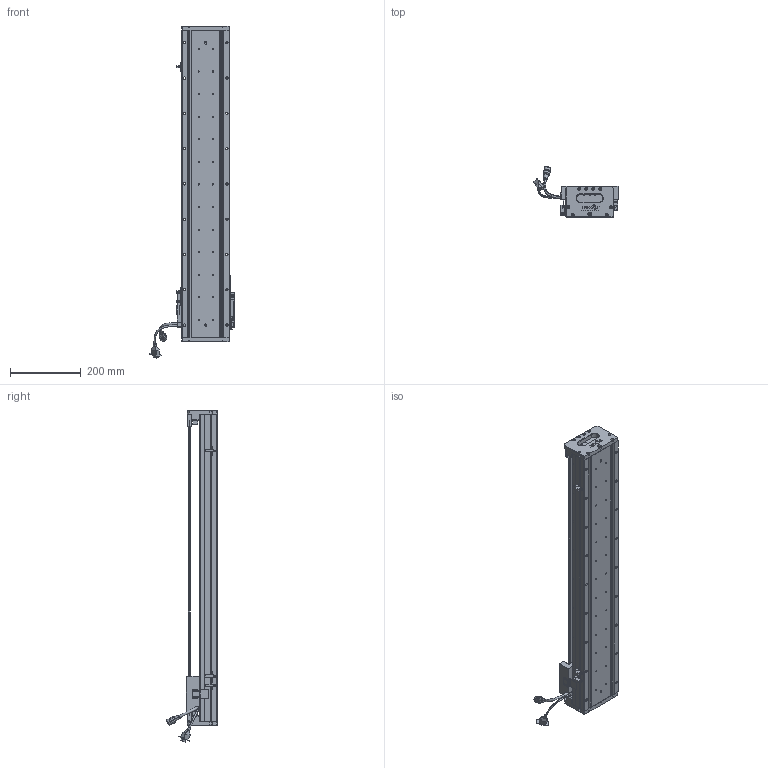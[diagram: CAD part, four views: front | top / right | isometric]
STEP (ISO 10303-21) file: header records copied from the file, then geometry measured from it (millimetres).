
FILE_DESCRIPTION (( 'STEP AP203' ), '1' );
FILE_NAME ('Z1-RY140D-1-L500-B-K.SLDASM_0700.step', '2021-05-17T07:30:55', ( '盈信电脑' ), ( '东莞市道滘镇水果街19号' ), 'SwSTEP 2.0', 'SolidWorks 2016', '' );
FILE_SCHEMA (( 'CONFIG_CONTROL_DESIGN' ));
Length unit declared in the file: millimetre
Products named in the file (36): SCALE; SCREW-M1.6-2; HARNESS-Part-2; 080黍杅芛假蚾釱21遴; SCREW-M1.6-3; Z1-RY140-L500詩湍100mm遵_0700; SEAL-Part-1; 140蚥薯蝶輸; HARNESS-Part-1; SCREW-M1.7-1; SCALE-Part-2; 140-Z-臏賑輸盄裔(21遴); Z1-RY140圉猾敕臏賑輸(21遴); 140雄赽晤鎢ん堤盄; SCREW-M1.6-1; SCREW-M1.6; 覜茼ん672; HARNESS; 榋妏寠巭燃_暯_M2_2; COVER; SEAL; Z1-RY140-L500直线电机模组底座_0700; Z-RY140詩湍奻揤裔; SCALE-Part-1; LABEL-Part-1; HOLDER0; SCREW-M1.7; PSLH080_PSLF2; Z-RY140感应器672光电感应片; PBU_SHEET; Z-RY140詩湍狟揤裔; Z1-RY140D-1-L500-B-K.SLDASM_0700; Z-140詩湍傷裔啣; SHIELDPLATE; LABEL; COVER-Part-1
Assembly tree (41 placements, depth 4):
  Z1-RY140D-1-L500-B-K.SLDASM_0700
    Z1-RY140-L500直线电机模组底座_0700
    Z-RY140感应器672光电感应片
    Z1-RY140圉猾敕臏賑輸(21遴)
    覜茼ん672  x3
    Z1-RY140-L500詩湍100mm遵_0700
    PSLH080_PSLF2
      SCALE
        SCALE-Part-1
        SCALE-Part-2
      HARNESS
        HARNESS-Part-1
        HARNESS-Part-2
      LABEL
        LABEL-Part-1
      COVER
        COVER-Part-1
      SEAL
        SEAL-Part-1
      榋妏寠巭燃_暯_M2_2
      SHIELDPLATE
      SCREW-M1.7
      SCREW-M1.7-1
      PBU_SHEET
      SCREW-M1.6
      SCREW-M1.6-1
      SCREW-M1.6-2
      SCREW-M1.6-3
      HOLDER0
    080黍杅芛假蚾釱21遴
    140-Z-臏賑輸盄裔(21遴)
    Z-140詩湍傷裔啣  x2
    Z-RY140詩湍狟揤裔  x2
    Z-RY140詩湍奻揤裔  x2
    140蚥薯蝶輸  x2
    140雄赽晤鎢ん堤盄
Bounding box: 239.84 x 143.88 x 940.88 mm (x, y, z)
Volume: 3262583.8 mm3; surface area: 876562.4 mm2
Topology: 36 solids, 36 shells, 2790 faces, 7348 edges, 4661 vertices
Faces by surface type: cylinder 1290, plane 1120, cone 258, torus 69, bspline 53
Entity records: 81180 total; most frequent: CARTESIAN_POINT 20531, ORIENTED_EDGE 11872, DIRECTION 11716, EDGE_CURVE 5936, AXIS2_PLACEMENT_3D 4278, VERTEX_POINT 3829, LINE 3160, VECTOR 3160
